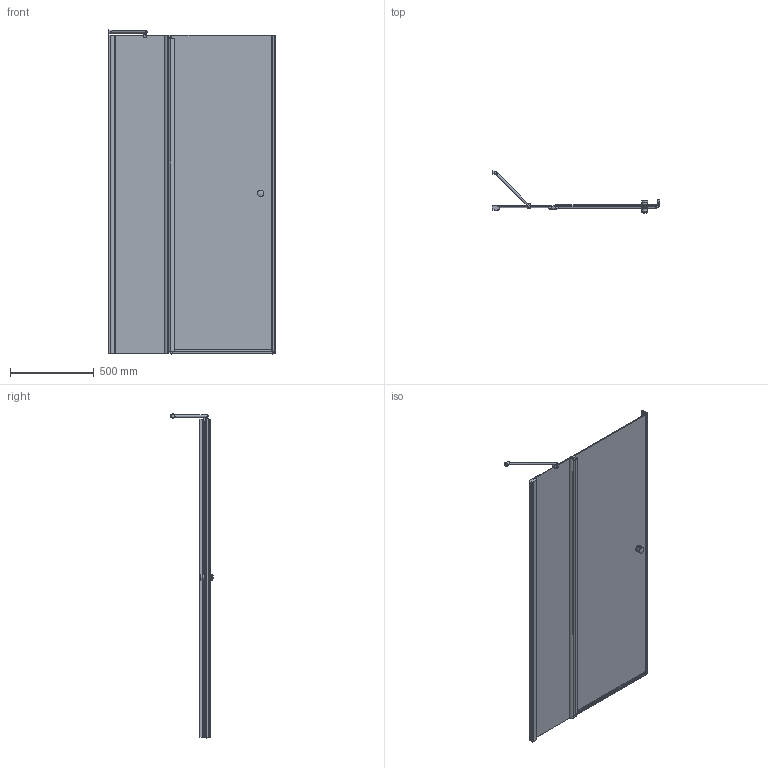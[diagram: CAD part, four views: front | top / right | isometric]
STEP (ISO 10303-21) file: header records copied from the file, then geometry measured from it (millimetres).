
FILE_DESCRIPTION(/* description */ (''),/* implementation_level */ '2;1');
FILE_NAME(/* name */ 'E:\Работа\Сергей\Душевые кабинки\! Работа\GK-602A\LUX DOOR GK-602A\LUX DOOR GK-602A левая модель\LUX DOOR GK-602A ЛЕВАЯ-3D.stp',/* time_stamp */ '2018-03-07T19:23:19+03:00',/* author */ ('PC'),/* organization */ (''),/* preprocessor_version */ 'ST-DEVELOPER v15.2',/* originating_system */ 'Autodesk Inventor 2014',/* authorisation */ '');
FILE_SCHEMA (('AUTOMOTIVE_DESIGN { 1 0 10303 214 3 1 1 }'));
Length unit declared in the file: millimetre
Products named in the file (1): LUX DOOR GK-602A ЛЕВАЯ-3D
Bounding box: 1000 x 254.63 x 1935.74 mm (x, y, z)
Volume: 14933977.4 mm3; surface area: 4513700.6 mm2
Topology: 5 solids, 6 shells, 354 faces, 992 edges, 648 vertices
Faces by surface type: plane 211, cylinder 129, cone 5, sphere 4, torus 3, bspline 2
Full cylindrical faces by diameter (mm): 5 x1, 7.8 x1, 12 x1, 15 x1, 19 x1, 20 x2, 26 x1, 38 x4
Entity records: 11895 total; most frequent: CARTESIAN_POINT 2260, DIRECTION 1934, ORIENTED_EDGE 1932, EDGE_CURVE 962, AXIS2_PLACEMENT_3D 645, LINE 644, VECTOR 644, VERTEX_POINT 637
